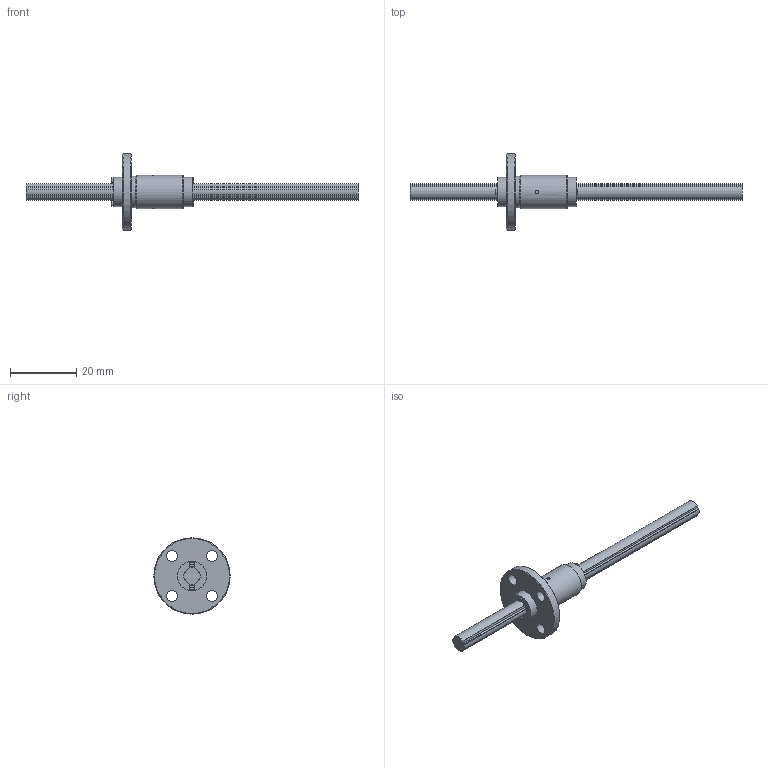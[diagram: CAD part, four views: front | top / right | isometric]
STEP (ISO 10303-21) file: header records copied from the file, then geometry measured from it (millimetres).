
FILE_DESCRIPTION(/* description */ ('STEP AP214'),/* implementation_level */ '2;1');
FILE_NAME(/* name */ 'LF5XL+100L(00)',/* time_stamp */ '2024-09-05T14:42:23+02:00',/* author */ ('License CC BY-ND 4.0'),/* organization */ ('CADENAS'),/* preprocessor_version */ 'ST-DEVELOPER v19.3',/* originating_system */ 'PARTsolutions',/* authorisation */ ' ');
FILE_SCHEMA (('AUTOMOTIVE_DESIGN {1 0 10303 214 3 1 1}'));
Length unit declared in the file: millimetre
Products named in the file (3): LF5XL+100L(00); 1LT5XL 100Shaft; 1LF5XL Cylindar
Assembly tree (2 placements, depth 2):
  LF5XL+100L(00)
    1LT5XL 100Shaft
    1LF5XL Cylindar
Bounding box: 100 x 23 x 23 mm (x, y, z)
Volume: 4005.4 mm3; surface area: 3691.2 mm2
Topology: 2 solids, 2 shells, 122 faces, 320 edges, 212 vertices
Faces by surface type: plane 71, cylinder 47, cone 4
Full cylindrical faces by diameter (mm): 1 x2, 1.6 x4, 3.4 x4, 8.8 x2, 9.6 x1, 10 x1, 23 x1
Entity records: 3773 total; most frequent: CARTESIAN_POINT 671, DIRECTION 636, ORIENTED_EDGE 594, EDGE_CURVE 297, AXIS2_PLACEMENT_3D 218, VERTEX_POINT 209, LINE 200, VECTOR 200
